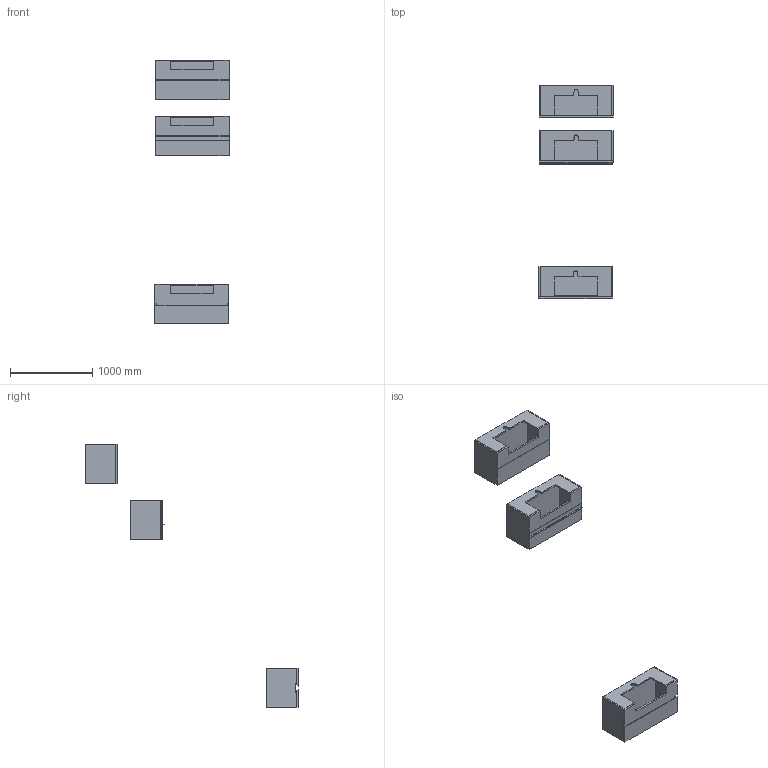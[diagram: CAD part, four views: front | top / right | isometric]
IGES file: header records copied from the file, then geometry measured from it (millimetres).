
Start section: Data from Parasolid IGES Translator 19.0.9, Copyright(c) 2006 Siemens PL M Software. All Rights Reserved.
Global section: file name: noorth-SI-H 48 D 38,8 W 90_8396.igs; native system: By Siemens PLM Incorporated; preprocessor: XPlus GENERIC/IGES 19.0.9; author: Noname; organization: Noname; date: 20200601.101916; units: metre
Bounding box: 904.28 x 2585.1 x 3200.81 mm (x, y, z)
Volume: 66173179.1 mm3; surface area: 10620570.6 mm2
Topology: 23 solids, 23 shells, 301 faces, 741 edges, 476 vertices
Faces by surface type: plane 230, cylinder 35, extrusion 20, bspline 16
